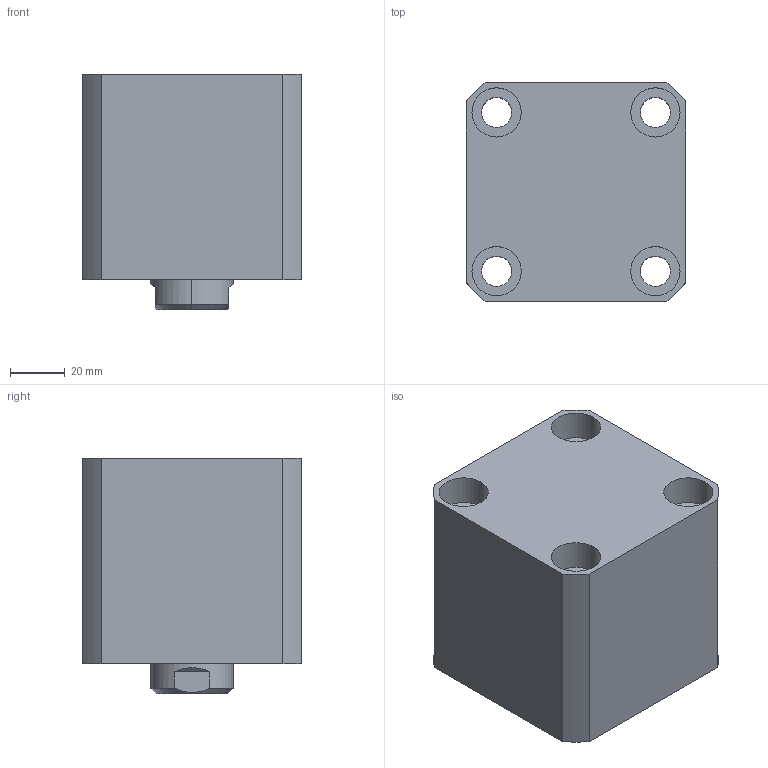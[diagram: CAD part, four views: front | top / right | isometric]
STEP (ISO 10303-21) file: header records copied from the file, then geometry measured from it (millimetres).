
FILE_DESCRIPTION (( 'STEP AP203' ), '1' );
FILE_NAME ('CHTB-SDMA50-15N.STEP', '2018-05-19T01:25:47', ( '' ), ( '' ), 'SwSTEP 2.0', 'SolidWorks 2015', '' );
FILE_SCHEMA (( 'CONFIG_CONTROL_DESIGN' ));
Length unit declared in the file: millimetre
Products named in the file (5): CHTB-SDMA50-15N; M6; CHTM-SDMA50QG; 活塞杆SDMA50-15N; 掛极SDMA50-15N
Assembly tree (5 placements, depth 2):
  CHTB-SDMA50-15N
    掛极SDMA50-15N
    CHTM-SDMA50QG
    活塞杆SDMA50-15N
    M6  x2
Bounding box: 80 x 80 x 86 mm (x, y, z)
Volume: 405365.7 mm3; surface area: 89907.6 mm2
Topology: 5 solids, 5 shells, 270 faces, 703 edges, 464 vertices
Faces by surface type: cylinder 139, plane 58, cone 31, bspline 26, torus 16
Entity records: 14133 total; most frequent: CARTESIAN_POINT 8131, ORIENTED_EDGE 1208, DIRECTION 1054, EDGE_CURVE 604, AXIS2_PLACEMENT_3D 433, VERTEX_POINT 403, EDGE_LOOP 277, FACE_OUTER_BOUND 235
